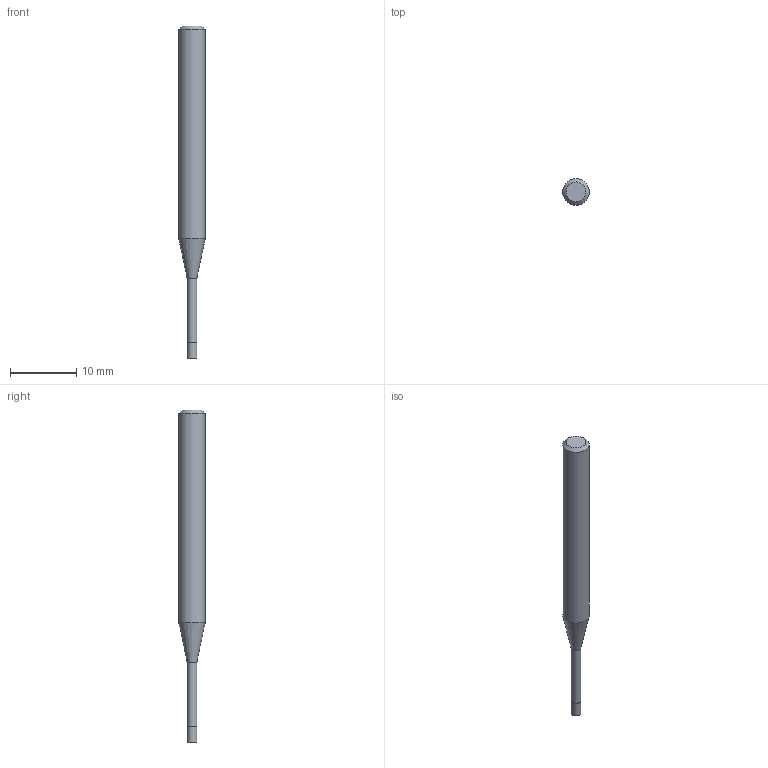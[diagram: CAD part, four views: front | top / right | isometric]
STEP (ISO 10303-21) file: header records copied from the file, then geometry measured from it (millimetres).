
FILE_DESCRIPTION((''),'2;1');
FILE_NAME('C:\Users\nsx150\AppData\Local\Temp\Mastercam 2021\17T8Q8S9EB\TEMP.step','2021-04-21T16:14:52',(''),(''),'STEP Write','Mastercam 2021 ... CNC Software, Inc.','');
FILE_SCHEMA(('AUTOMOTIVE_DESIGN'));
Length unit declared in the file: millimetre
Products named in the file (1): None
Bounding box: 4 x 4 x 50 mm (x, y, z)
Volume: 458.3 mm3; surface area: 523.4 mm2
Topology: 2 solids, 2 shells, 9 faces, 12 edges, 7 vertices
Faces by surface type: plane 4, cylinder 3, cone 2
Full cylindrical faces by diameter (mm): 1.45 x1, 1.5 x1, 4 x1
Entity records: 211 total; most frequent: DIRECTION 36, CARTESIAN_POINT 25, AXIS2_PLACEMENT_3D 18, ORIENTED_EDGE 14, EDGE_LOOP 14, STYLED_ITEM 12, ADVANCED_FACE 9, FACE_BOUND 8
